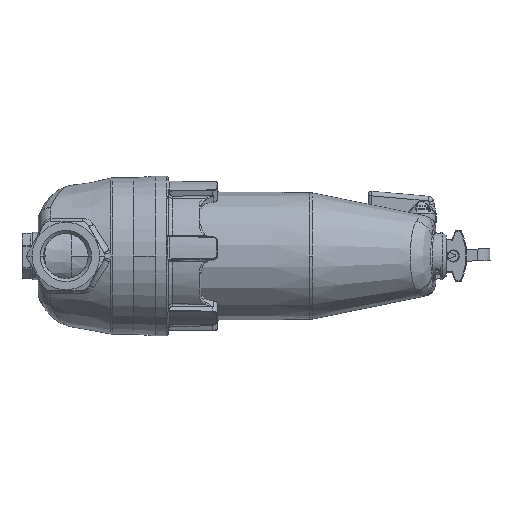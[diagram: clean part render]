
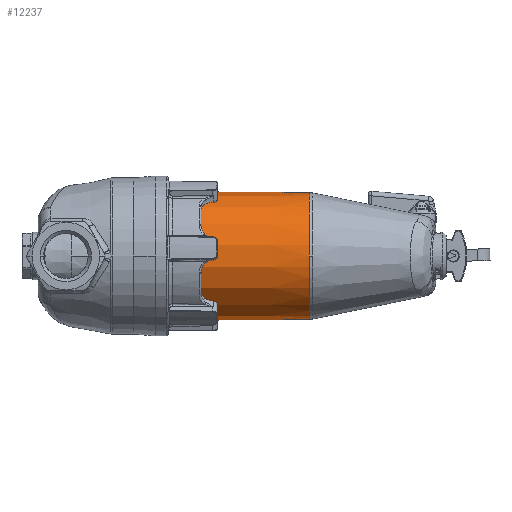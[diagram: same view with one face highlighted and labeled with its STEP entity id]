
A CAD part, left-side view. The second image highlights one B-rep face of the part: STEP entity #12237.
In plain terms, the highlighted conical face has half-angle 0.333 degrees and reference radius 35.245 mm.
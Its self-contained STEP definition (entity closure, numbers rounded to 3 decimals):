
#1387 = CARTESIAN_POINT ( 'NONE',  ( 0., -133.221, -34.756 ) ) ;
#1524 = VERTEX_POINT ( 'NONE', #40147 ) ;
#2053 = CARTESIAN_POINT ( 'NONE',  ( 0., -49., 0. ) ) ;
#11436 = ORIENTED_EDGE ( 'NONE', *, *, #29633, .F. ) ;
#12142 = DIRECTION ( 'NONE',  ( 0., 1., 0. ) ) ;
#12237 = ADVANCED_FACE ( 'NONE', ( #61808 ), #37792, .T. ) ;
#18705 = DIRECTION ( 'NONE',  ( 0., 0., 1. ) ) ;
#18778 = AXIS2_PLACEMENT_3D ( 'NONE', #52169, #25716, #64521 ) ;
#23470 = CIRCLE ( 'NONE', #18778, 34.756 ) ;
#25276 = DIRECTION ( 'NONE',  ( 0., 1., 0. ) ) ;
#25716 = DIRECTION ( 'NONE',  ( 0., 1., 0. ) ) ;
#26774 = CARTESIAN_POINT ( 'NONE',  ( -34.756, -133.221, 0. ) ) ;
#28185 = EDGE_CURVE ( 'NONE', #64535, #57828, #23470, .T. ) ;
#29338 = EDGE_CURVE ( 'NONE', #57828, #1524, #59527, .T. ) ;
#29633 = EDGE_CURVE ( 'NONE', #38246, #1524, #48276, .T. ) ;
#32344 = CARTESIAN_POINT ( 'NONE',  ( 0., -133.221, 34.756 ) ) ;
#33153 = CARTESIAN_POINT ( 'NONE',  ( 0., -49., -35.245 ) ) ;
#33888 = DIRECTION ( 'NONE',  ( 0., 0., 1. ) ) ;
#37779 = DIRECTION ( 'NONE',  ( 0., 1., 0.006 ) ) ;
#37792 = CONICAL_SURFACE ( 'NONE', #64458, 35.245, 0.006 ) ;
#38246 = VERTEX_POINT ( 'NONE', #60974 ) ;
#38838 = ORIENTED_EDGE ( 'NONE', *, *, #28185, .T. ) ;
#39691 = CARTESIAN_POINT ( 'NONE',  ( 0., -49., 0. ) ) ;
#40147 = CARTESIAN_POINT ( 'NONE',  ( 0., -49., 35.245 ) ) ;
#41367 = AXIS2_PLACEMENT_3D ( 'NONE', #2053, #25276, #18705 ) ;
#43906 = ORIENTED_EDGE ( 'NONE', *, *, #29338, .T. ) ;
#44738 = DIRECTION ( 'NONE',  ( 0., 0., 1. ) ) ;
#45834 = VECTOR ( 'NONE', #54575, 1000. ) ;
#47329 = ORIENTED_EDGE ( 'NONE', *, *, #67164, .T. ) ;
#48276 = CIRCLE ( 'NONE', #41367, 35.245 ) ;
#49098 = VERTEX_POINT ( 'NONE', #1387 ) ;
#49109 = VECTOR ( 'NONE', #37779, 1000. ) ;
#50299 = AXIS2_PLACEMENT_3D ( 'NONE', #61455, #66546, #44738 ) ;
#52169 = CARTESIAN_POINT ( 'NONE',  ( 0., -133.221, 0. ) ) ;
#52817 = EDGE_LOOP ( 'NONE', ( #56837, #47329, #38838, #43906, #11436 ) ) ;
#53212 = EDGE_CURVE ( 'NONE', #49098, #38246, #70910, .T. ) ;
#54575 = DIRECTION ( 'NONE',  ( 0., 1., -0.006 ) ) ;
#56837 = ORIENTED_EDGE ( 'NONE', *, *, #53212, .F. ) ;
#57828 = VERTEX_POINT ( 'NONE', #32344 ) ;
#59527 = LINE ( 'NONE', #64627, #49109 ) ;
#60974 = CARTESIAN_POINT ( 'NONE',  ( 0., -49., -35.245 ) ) ;
#61455 = CARTESIAN_POINT ( 'NONE',  ( 0., -133.221, 0. ) ) ;
#61808 = FACE_OUTER_BOUND ( 'NONE', #52817, .T. ) ;
#64458 = AXIS2_PLACEMENT_3D ( 'NONE', #39691, #12142, #33888 ) ;
#64521 = DIRECTION ( 'NONE',  ( 0., 0., 1. ) ) ;
#64535 = VERTEX_POINT ( 'NONE', #26774 ) ;
#64627 = CARTESIAN_POINT ( 'NONE',  ( 0., -49., 35.245 ) ) ;
#66546 = DIRECTION ( 'NONE',  ( 0., 1., 0. ) ) ;
#67164 = EDGE_CURVE ( 'NONE', #49098, #64535, #68701, .T. ) ;
#68701 = CIRCLE ( 'NONE', #50299, 34.756 ) ;
#70910 = LINE ( 'NONE', #33153, #45834 ) ;
